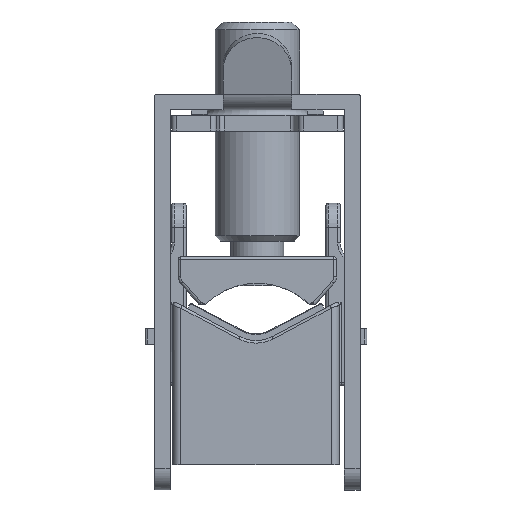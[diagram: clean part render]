
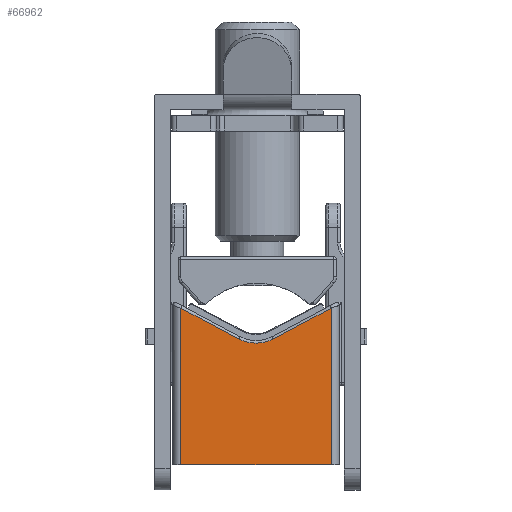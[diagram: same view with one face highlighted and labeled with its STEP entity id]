
A CAD part, front view. The second image highlights one B-rep face of the part: STEP entity #66962.
In plain terms, the highlighted planar face has unit normal (0, -1, 0).
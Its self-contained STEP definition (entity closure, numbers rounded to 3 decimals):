
#588 = CARTESIAN_POINT ( 'NONE',  ( 14., -17.5, -48.184 ) ) ;
#9656 = EDGE_CURVE ( 'NONE', #28439, #39693, #29983, .T. ) ;
#9887 = VECTOR ( 'NONE', #19554, 1000. ) ;
#10011 = CARTESIAN_POINT ( 'NONE',  ( -14.5, -17.5, -48.184 ) ) ;
#13754 = CARTESIAN_POINT ( 'NONE',  ( -0.25, -17.5, -63.184 ) ) ;
#13907 = CARTESIAN_POINT ( 'NONE',  ( -14.5, -17.5, -63.184 ) ) ;
#14850 = EDGE_CURVE ( 'NONE', #78905, #28439, #87497, .T. ) ;
#14926 = LINE ( 'NONE', #588, #104710 ) ;
#15865 = DIRECTION ( 'NONE',  ( 0., -1., 0. ) ) ;
#16103 = VERTEX_POINT ( 'NONE', #13907 ) ;
#16490 = VECTOR ( 'NONE', #113264, 1000. ) ;
#19297 = EDGE_LOOP ( 'NONE', ( #52223, #90334, #36929, #64824, #100948, #112053 ) ) ;
#19554 = DIRECTION ( 'NONE',  ( 0., 0., 1. ) ) ;
#21486 = EDGE_CURVE ( 'NONE', #31584, #78905, #40788, .T. ) ;
#27066 = DIRECTION ( 'NONE',  ( 0., 1., 0. ) ) ;
#28439 = VERTEX_POINT ( 'NONE', #83039 ) ;
#29983 = LINE ( 'NONE', #47316, #68520 ) ;
#31584 = VERTEX_POINT ( 'NONE', #116147 ) ;
#34250 = DIRECTION ( 'NONE',  ( 0., 0., 1. ) ) ;
#36929 = ORIENTED_EDGE ( 'NONE', *, *, #21486, .F. ) ;
#39693 = VERTEX_POINT ( 'NONE', #70672 ) ;
#40788 = LINE ( 'NONE', #66686, #16490 ) ;
#47316 = CARTESIAN_POINT ( 'NONE',  ( 3.031, -17.5, -39.367 ) ) ;
#52223 = ORIENTED_EDGE ( 'NONE', *, *, #9656, .F. ) ;
#61141 = AXIS2_PLACEMENT_3D ( 'NONE', #64921, #27066, #100758 ) ;
#64346 = DIRECTION ( 'NONE',  ( 0., 0., -1. ) ) ;
#64422 = EDGE_CURVE ( 'NONE', #16103, #31584, #98231, .T. ) ;
#64824 = ORIENTED_EDGE ( 'NONE', *, *, #64422, .F. ) ;
#64921 = CARTESIAN_POINT ( 'NONE',  ( -0.25, -17.5, -48.184 ) ) ;
#66453 = DIRECTION ( 'NONE',  ( 0.883, 0., 0.469 ) ) ;
#66686 = CARTESIAN_POINT ( 'NONE',  ( -14.5, -17.5, -33.546 ) ) ;
#66962 = ADVANCED_FACE ( 'NONE', ( #100890 ), #90824, .F. ) ;
#68520 = VECTOR ( 'NONE', #66453, 1000. ) ;
#68882 = EDGE_CURVE ( 'NONE', #39693, #79801, #14926, .T. ) ;
#70672 = CARTESIAN_POINT ( 'NONE',  ( 14., -17.5, -33.546 ) ) ;
#74741 = AXIS2_PLACEMENT_3D ( 'NONE', #106750, #15865, #34250 ) ;
#78905 = VERTEX_POINT ( 'NONE', #84701 ) ;
#79801 = VERTEX_POINT ( 'NONE', #89687 ) ;
#83039 = CARTESIAN_POINT ( 'NONE',  ( 3.031, -17.5, -39.367 ) ) ;
#84701 = CARTESIAN_POINT ( 'NONE',  ( -3.531, -17.5, -39.367 ) ) ;
#86370 = EDGE_CURVE ( 'NONE', #79801, #16103, #111876, .T. ) ;
#87012 = DIRECTION ( 'NONE',  ( -1., 0., 0. ) ) ;
#87497 = CIRCLE ( 'NONE', #74741, 7. ) ;
#87615 = VECTOR ( 'NONE', #87012, 1000. ) ;
#89687 = CARTESIAN_POINT ( 'NONE',  ( 14., -17.5, -63.184 ) ) ;
#90334 = ORIENTED_EDGE ( 'NONE', *, *, #14850, .F. ) ;
#90824 = PLANE ( 'NONE',  #61141 ) ;
#98231 = LINE ( 'NONE', #10011, #9887 ) ;
#100758 = DIRECTION ( 'NONE',  ( -1., 0., 0. ) ) ;
#100890 = FACE_OUTER_BOUND ( 'NONE', #19297, .T. ) ;
#100948 = ORIENTED_EDGE ( 'NONE', *, *, #86370, .F. ) ;
#104710 = VECTOR ( 'NONE', #64346, 1000. ) ;
#106750 = CARTESIAN_POINT ( 'NONE',  ( -0.25, -17.5, -33.184 ) ) ;
#111876 = LINE ( 'NONE', #13754, #87615 ) ;
#112053 = ORIENTED_EDGE ( 'NONE', *, *, #68882, .F. ) ;
#113264 = DIRECTION ( 'NONE',  ( 0.883, 0., -0.469 ) ) ;
#116147 = CARTESIAN_POINT ( 'NONE',  ( -14.5, -17.5, -33.546 ) ) ;
